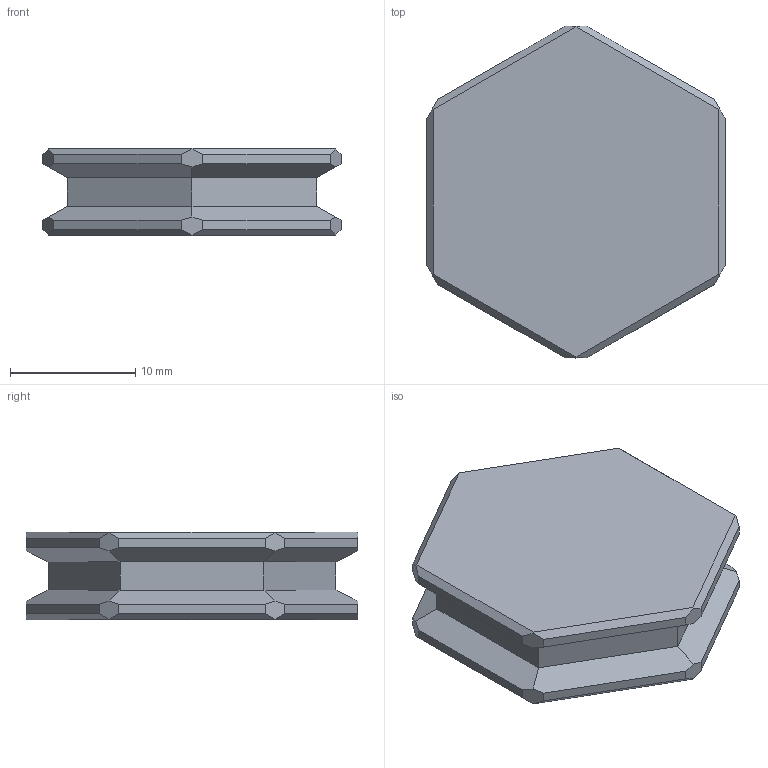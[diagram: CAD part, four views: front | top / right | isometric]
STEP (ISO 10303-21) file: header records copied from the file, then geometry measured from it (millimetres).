
FILE_DESCRIPTION(('FreeCAD Model'),'2;1');
FILE_NAME('Open CASCADE Shape Model','2025-09-30T05:56:25',('Author'),( ''),'Open CASCADE STEP processor 7.8','FreeCAD','Unknown');
FILE_SCHEMA(('AUTOMOTIVE_DESIGN { 1 0 10303 214 1 1 1 1 }'));
Length unit declared in the file: millimetre
Products named in the file (1): ID-Blank
Bounding box: 23.77 x 26.45 x 7 mm (x, y, z)
Volume: 2898.3 mm3; surface area: 1622.2 mm2
Topology: 1 solids, 1 shells, 56 faces, 150 edges, 96 vertices
Faces by surface type: plane 44, bspline 12
Entity records: 1756 total; most frequent: CARTESIAN_POINT 447, ORIENTED_EDGE 300, DIRECTION 204, EDGE_CURVE 150, LINE 114, VECTOR 114, VERTEX_POINT 96, ADVANCED_FACE 56
